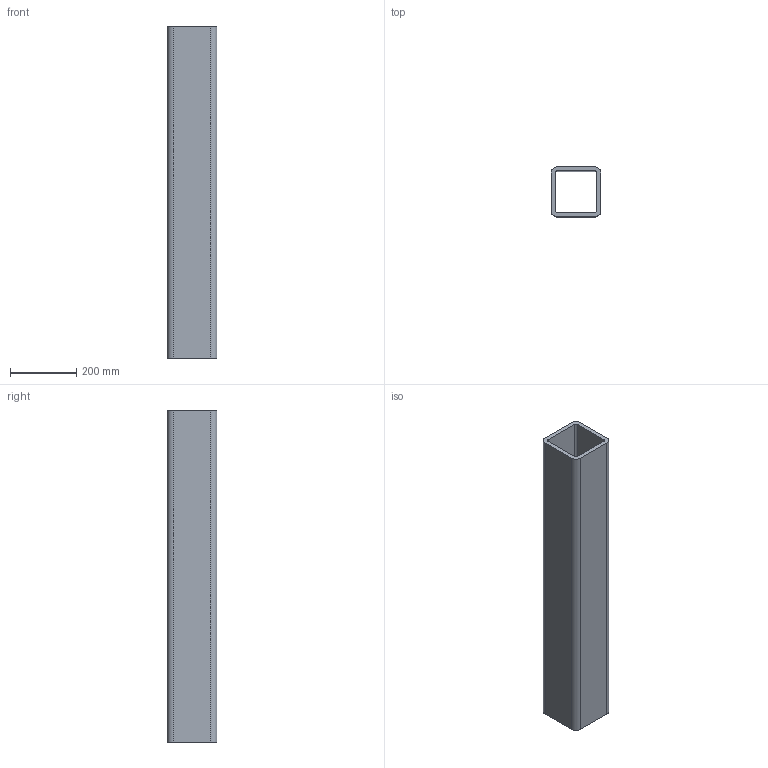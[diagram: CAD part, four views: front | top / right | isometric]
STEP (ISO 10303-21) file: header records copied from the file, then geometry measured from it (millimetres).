
FILE_DESCRIPTION(('Open CASCADE Model'),'2;1');
FILE_NAME('Open CASCADE Shape Model','2026-10-19T10:09:19',('Author'),( 'Open CASCADE'),'Open CASCADE STEP processor 8.0','Open CASCADE 8.0' ,'Unknown');
FILE_SCHEMA(('AUTOMOTIVE_DESIGN { 1 0 10303 214 1 1 1 1 }'));
Length unit declared in the file: millimetre
Products named in the file (1): SHS150x150x12p5_L1000000_P05 14
Bounding box: 150 x 150 x 1000 mm (x, y, z)
Volume: 6606747.7 mm3; surface area: 1070293.1 mm2
Topology: 1 solids, 1 shells, 18 faces, 48 edges, 32 vertices
Faces by surface type: plane 10, cylinder 8
Entity records: 1206 total; most frequent: DIRECTION 198, CARTESIAN_POINT 195, LINE 112, VECTOR 112, ORIENTED_EDGE 96, PCURVE 96, DEFINITIONAL_REPRESENTATION 96, EDGE_CURVE 48
